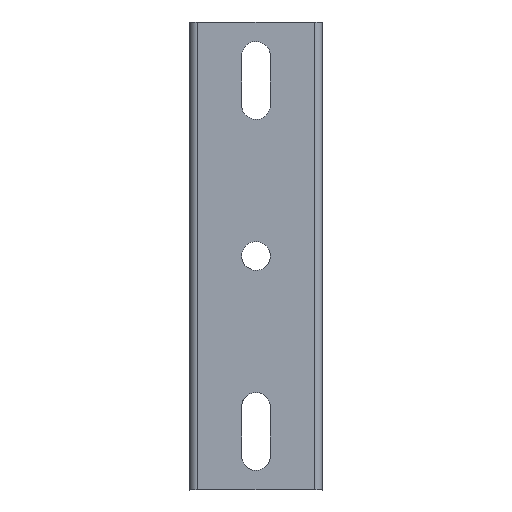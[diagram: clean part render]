
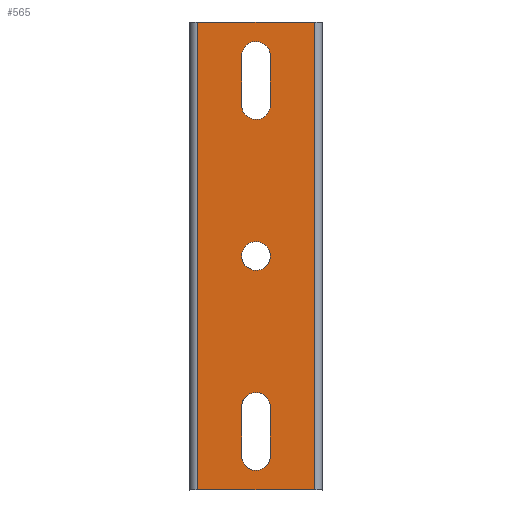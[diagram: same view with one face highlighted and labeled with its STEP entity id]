
A CAD part, top view. The second image highlights one B-rep face of the part: STEP entity #565.
In plain terms, the highlighted planar face has unit normal (0, 0, 1).
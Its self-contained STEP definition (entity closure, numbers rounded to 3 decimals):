
#38=FACE_BOUND($,#705,.T.);
#39=FACE_BOUND($,#706,.T.);
#40=FACE_BOUND($,#707,.T.);
#56=PLANE($,#1791);
#565=ADVANCED_FACE($,(#621,#38,#39,#40),#56,.T.);
#621=FACE_OUTER_BOUND($,#704,.T.);
#704=EDGE_LOOP($,(#969,#970,#971,#972));
#705=EDGE_LOOP($,(#973,#974,#975,#976));
#706=EDGE_LOOP($,(#977,#978,#979,#980));
#707=EDGE_LOOP($,(#981));
#969=ORIENTED_EDGE($,*,*,#1221,.T.);
#970=ORIENTED_EDGE($,*,*,#1224,.T.);
#971=ORIENTED_EDGE($,*,*,#1223,.T.);
#972=ORIENTED_EDGE($,*,*,#1222,.F.);
#973=ORIENTED_EDGE($,*,*,#1226,.F.);
#974=ORIENTED_EDGE($,*,*,#1227,.F.);
#975=ORIENTED_EDGE($,*,*,#1228,.F.);
#976=ORIENTED_EDGE($,*,*,#1225,.F.);
#977=ORIENTED_EDGE($,*,*,#1229,.T.);
#978=ORIENTED_EDGE($,*,*,#1230,.T.);
#979=ORIENTED_EDGE($,*,*,#1231,.T.);
#980=ORIENTED_EDGE($,*,*,#1232,.T.);
#981=ORIENTED_EDGE($,*,*,#1233,.F.);
#1221=EDGE_CURVE($,#1451,#1454,#1748,.T.);
#1222=EDGE_CURVE($,#1451,#1452,#1749,.T.);
#1223=EDGE_CURVE($,#1453,#1452,#1750,.T.);
#1224=EDGE_CURVE($,#1454,#1453,#1751,.T.);
#1225=EDGE_CURVE($,#1455,#1456,#1645,.T.);
#1226=EDGE_CURVE($,#1457,#1455,#1752,.T.);
#1227=EDGE_CURVE($,#1458,#1457,#1646,.T.);
#1228=EDGE_CURVE($,#1456,#1458,#1753,.T.);
#1229=EDGE_CURVE($,#1459,#1460,#1754,.T.);
#1230=EDGE_CURVE($,#1460,#1461,#1647,.T.);
#1231=EDGE_CURVE($,#1461,#1462,#1755,.T.);
#1232=EDGE_CURVE($,#1462,#1459,#1648,.T.);
#1233=EDGE_CURVE($,#1463,#1463,#1649,.T.);
#1451=VERTEX_POINT($,#3661);
#1452=VERTEX_POINT($,#3662);
#1453=VERTEX_POINT($,#3663);
#1454=VERTEX_POINT($,#3664);
#1455=VERTEX_POINT($,#3665);
#1456=VERTEX_POINT($,#3666);
#1457=VERTEX_POINT($,#3667);
#1458=VERTEX_POINT($,#3668);
#1459=VERTEX_POINT($,#3669);
#1460=VERTEX_POINT($,#3670);
#1461=VERTEX_POINT($,#3671);
#1462=VERTEX_POINT($,#3672);
#1463=VERTEX_POINT($,#3673);
#1645=(
BOUNDED_CURVE()
B_SPLINE_CURVE(2,(#3623,#3624,#3625,#3626,#3627),.UNSPECIFIED.,.F.,.F.)
B_SPLINE_CURVE_WITH_KNOTS((3,2,3),(17.279,25.918,34.558),
.UNSPECIFIED.)
CURVE()
GEOMETRIC_REPRESENTATION_ITEM()
RATIONAL_B_SPLINE_CURVE((1.,0.707,1.,0.707,1.))
REPRESENTATION_ITEM($)
);
#1646=(
BOUNDED_CURVE()
B_SPLINE_CURVE(2,(#3630,#3631,#3632,#3633,#3634),.UNSPECIFIED.,.F.,.F.)
B_SPLINE_CURVE_WITH_KNOTS((3,2,3),(0.,8.639,17.279),
.UNSPECIFIED.)
CURVE()
GEOMETRIC_REPRESENTATION_ITEM()
RATIONAL_B_SPLINE_CURVE((1.,0.707,1.,0.707,1.))
REPRESENTATION_ITEM($)
);
#1647=(
BOUNDED_CURVE()
B_SPLINE_CURVE(2,(#3639,#3640,#3641,#3642,#3643),.UNSPECIFIED.,.F.,.F.)
B_SPLINE_CURVE_WITH_KNOTS((3,2,3),(0.,8.639,17.279),
.UNSPECIFIED.)
CURVE()
GEOMETRIC_REPRESENTATION_ITEM()
RATIONAL_B_SPLINE_CURVE((1.,0.707,1.,0.707,1.))
REPRESENTATION_ITEM($)
);
#1648=(
BOUNDED_CURVE()
B_SPLINE_CURVE(2,(#3646,#3647,#3648,#3649,#3650),.UNSPECIFIED.,.F.,.F.)
B_SPLINE_CURVE_WITH_KNOTS((3,2,3),(17.279,25.918,34.558),
.UNSPECIFIED.)
CURVE()
GEOMETRIC_REPRESENTATION_ITEM()
RATIONAL_B_SPLINE_CURVE((1.,0.707,1.,0.707,1.))
REPRESENTATION_ITEM($)
);
#1649=(
BOUNDED_CURVE()
B_SPLINE_CURVE(2,(#3651,#3652,#3653,#3654,#3655,#3656,#3657,#3658,#3659),
.UNSPECIFIED.,.T.,.F.)
B_SPLINE_CURVE_WITH_KNOTS((3,2,2,2,3),(0.,8.639,17.279,
25.918,34.558),.UNSPECIFIED.)
CURVE()
GEOMETRIC_REPRESENTATION_ITEM()
RATIONAL_B_SPLINE_CURVE((1.,0.707,1.,0.707,1.,0.707,
1.,0.707,1.))
REPRESENTATION_ITEM($)
);
#1748=B_SPLINE_CURVE_WITH_KNOTS($,1,(#3615,#3616),.UNSPECIFIED.,.F.,.F.,
(2,2),(450.,495.),.UNSPECIFIED.);
#1749=B_SPLINE_CURVE_WITH_KNOTS($,1,(#3617,#3618),.UNSPECIFIED.,.F.,.F.,
(2,2),(-900.,-720.),.UNSPECIFIED.);
#1750=B_SPLINE_CURVE_WITH_KNOTS($,1,(#3619,#3620),.UNSPECIFIED.,.F.,.F.,
(2,2),(675.,720.),.UNSPECIFIED.);
#1751=B_SPLINE_CURVE_WITH_KNOTS($,1,(#3621,#3622),.UNSPECIFIED.,.F.,.F.,
(2,2),(495.,675.),.UNSPECIFIED.);
#1752=B_SPLINE_CURVE_WITH_KNOTS($,1,(#3628,#3629),.UNSPECIFIED.,.F.,.F.,
(2,2),(0.,19.),.UNSPECIFIED.);
#1753=B_SPLINE_CURVE_WITH_KNOTS($,1,(#3635,#3636),.UNSPECIFIED.,.F.,.F.,
(2,2),(0.,19.),.UNSPECIFIED.);
#1754=B_SPLINE_CURVE_WITH_KNOTS($,1,(#3637,#3638),.UNSPECIFIED.,.F.,.F.,
(2,2),(0.,19.),.UNSPECIFIED.);
#1755=B_SPLINE_CURVE_WITH_KNOTS($,1,(#3644,#3645),.UNSPECIFIED.,.F.,.F.,
(2,2),(0.,19.),.UNSPECIFIED.);
#1791=AXIS2_PLACEMENT_3D($,#3660,#1810,$);
#1810=DIRECTION($,(0.,0.,1.));
#3615=CARTESIAN_POINT($,(-22.5,-90.,0.));
#3616=CARTESIAN_POINT($,(22.5,-90.,0.));
#3617=CARTESIAN_POINT($,(-22.5,-90.,0.));
#3618=CARTESIAN_POINT($,(-22.5,90.,0.));
#3619=CARTESIAN_POINT($,(22.5,90.,0.));
#3620=CARTESIAN_POINT($,(-22.5,90.,0.));
#3621=CARTESIAN_POINT($,(22.5,-90.,0.));
#3622=CARTESIAN_POINT($,(22.5,90.,0.));
#3623=CARTESIAN_POINT($,(-5.5,58.,0.));
#3624=CARTESIAN_POINT($,(-5.5,52.5,0.));
#3625=CARTESIAN_POINT($,(0.,52.5,0.));
#3626=CARTESIAN_POINT($,(5.5,52.5,0.));
#3627=CARTESIAN_POINT($,(5.5,58.,0.));
#3628=CARTESIAN_POINT($,(-5.5,77.,0.));
#3629=CARTESIAN_POINT($,(-5.5,58.,0.));
#3630=CARTESIAN_POINT($,(5.5,77.,0.));
#3631=CARTESIAN_POINT($,(5.5,82.5,0.));
#3632=CARTESIAN_POINT($,(0.,82.5,0.));
#3633=CARTESIAN_POINT($,(-5.5,82.5,0.));
#3634=CARTESIAN_POINT($,(-5.5,77.,0.));
#3635=CARTESIAN_POINT($,(5.5,58.,0.));
#3636=CARTESIAN_POINT($,(5.5,77.,0.));
#3637=CARTESIAN_POINT($,(5.5,-58.,0.));
#3638=CARTESIAN_POINT($,(5.5,-77.,0.));
#3639=CARTESIAN_POINT($,(5.5,-77.,0.));
#3640=CARTESIAN_POINT($,(5.5,-82.5,0.));
#3641=CARTESIAN_POINT($,(0.,-82.5,0.));
#3642=CARTESIAN_POINT($,(-5.5,-82.5,0.));
#3643=CARTESIAN_POINT($,(-5.5,-77.,0.));
#3644=CARTESIAN_POINT($,(-5.5,-77.,0.));
#3645=CARTESIAN_POINT($,(-5.5,-58.,0.));
#3646=CARTESIAN_POINT($,(-5.5,-58.,0.));
#3647=CARTESIAN_POINT($,(-5.5,-52.5,0.));
#3648=CARTESIAN_POINT($,(0.,-52.5,0.));
#3649=CARTESIAN_POINT($,(5.5,-52.5,0.));
#3650=CARTESIAN_POINT($,(5.5,-58.,0.));
#3651=CARTESIAN_POINT($,(5.5,0.,0.));
#3652=CARTESIAN_POINT($,(5.5,5.5,0.));
#3653=CARTESIAN_POINT($,(0.,5.5,0.));
#3654=CARTESIAN_POINT($,(-5.5,5.5,0.));
#3655=CARTESIAN_POINT($,(-5.5,0.,0.));
#3656=CARTESIAN_POINT($,(-5.5,-5.5,0.));
#3657=CARTESIAN_POINT($,(0.,-5.5,0.));
#3658=CARTESIAN_POINT($,(5.5,-5.5,0.));
#3659=CARTESIAN_POINT($,(5.5,0.,0.));
#3660=CARTESIAN_POINT($,(-22.5,-90.,0.));
#3661=CARTESIAN_POINT($,(-22.5,-90.,0.));
#3662=CARTESIAN_POINT($,(-22.5,90.,0.));
#3663=CARTESIAN_POINT($,(22.5,90.,0.));
#3664=CARTESIAN_POINT($,(22.5,-90.,0.));
#3665=CARTESIAN_POINT($,(-5.5,58.,0.));
#3666=CARTESIAN_POINT($,(5.5,58.,0.));
#3667=CARTESIAN_POINT($,(-5.5,77.,0.));
#3668=CARTESIAN_POINT($,(5.5,77.,0.));
#3669=CARTESIAN_POINT($,(5.5,-58.,0.));
#3670=CARTESIAN_POINT($,(5.5,-77.,0.));
#3671=CARTESIAN_POINT($,(-5.5,-77.,0.));
#3672=CARTESIAN_POINT($,(-5.5,-58.,0.));
#3673=CARTESIAN_POINT($,(5.5,0.,0.));
